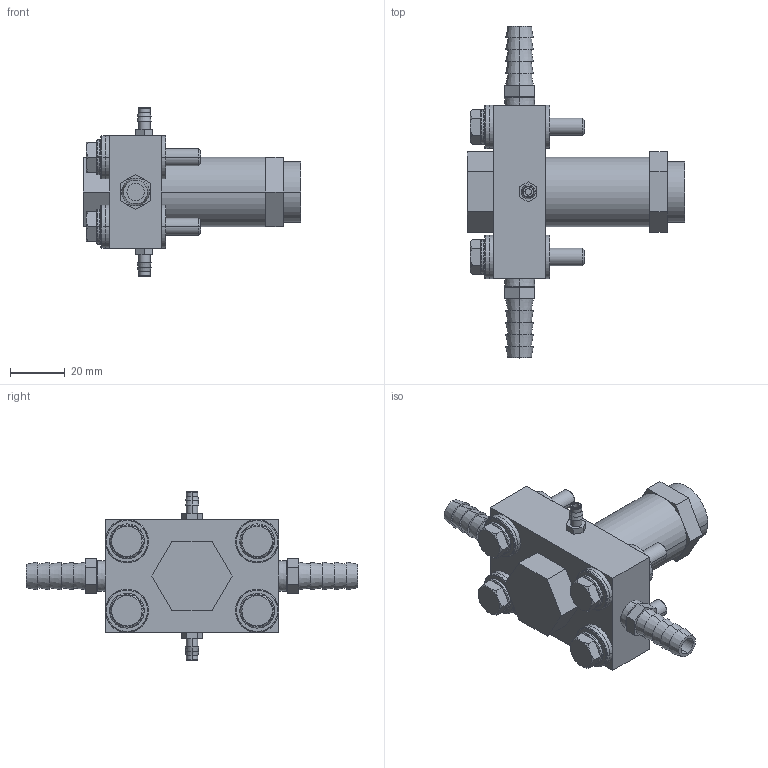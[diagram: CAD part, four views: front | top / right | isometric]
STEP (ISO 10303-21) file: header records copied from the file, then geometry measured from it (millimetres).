
FILE_DESCRIPTION((''),'2;1');
FILE_NAME('UKR2_ASM','2017-08-24T',('jennifer.elliott'),('CenterLine (Windsor) Ltd - Automation Components Division'),'PRO/ENGINEER BY PARAMETRIC TECHNOLOGY CORPORATION, 2015030','PRO/ENGINEER BY PARAMETRIC TECHNOLOGY CORPORATION, 2015030','');
FILE_SCHEMA(('AUTOMOTIVE_DESIGN { 1 0 10303 214 1 1 1 1 }'));
Length unit declared in the file: inch
Products named in the file (31): PRT0526; PRT0527; PRT0528; PRT0529; PRT0530; PRT0531; PRT0532; PRT0533; PRT0534; PRT0535; PRT0536; PRT0537; PRT0538; PRT0539; ASM0003_ASM; PRT0540; PRT0541; PRT0542; PRT0543; PRT0544; PRT0545; PRT0546; PRT0547; PRT0548; PRT0549; PRT0550; PRT0551; PRT0552; PRT0553; PRT0554; UKR2_ASM
Assembly tree (30 placements, depth 3):
  UKR2_ASM
    PRT0526
    PRT0527
    PRT0528
    PRT0529
    PRT0530
    PRT0531
    PRT0532
    PRT0533
    PRT0534
    PRT0535
    ASM0003_ASM
      PRT0536
      PRT0537
      PRT0538
      PRT0539
    PRT0540
    PRT0541
    PRT0542
    PRT0543
    PRT0544
    PRT0545
    PRT0546
    PRT0547
    PRT0548
    PRT0549
    PRT0550
    PRT0551
    PRT0552
    PRT0553
    PRT0554
Bounding box: 79.38 x 121.41 x 61.9 mm (x, y, z)
Volume: 91580.8 mm3; surface area: 37744.5 mm2
Topology: 29 solids, 29 shells, 346 faces, 760 edges, 496 vertices
Faces by surface type: plane 158, cylinder 92, cone 64, torus 32
Entity records: 11935 total; most frequent: CARTESIAN_POINT 2207, DIRECTION 1854, ORIENTED_EDGE 1520, AXIS2_PLACEMENT_3D 771, EDGE_CURVE 760, VERTEX_POINT 496, EDGE_LOOP 402, CIRCLE 360
